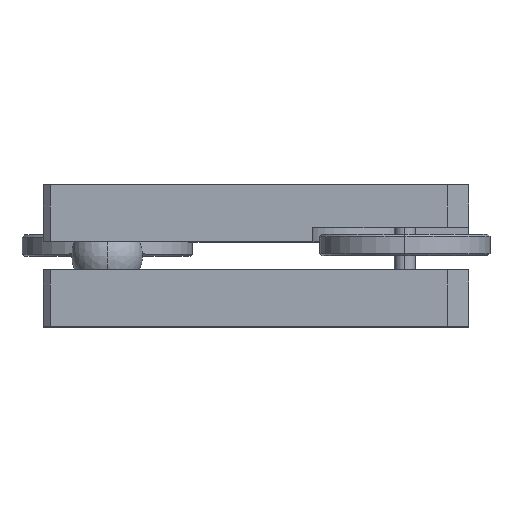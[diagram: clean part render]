
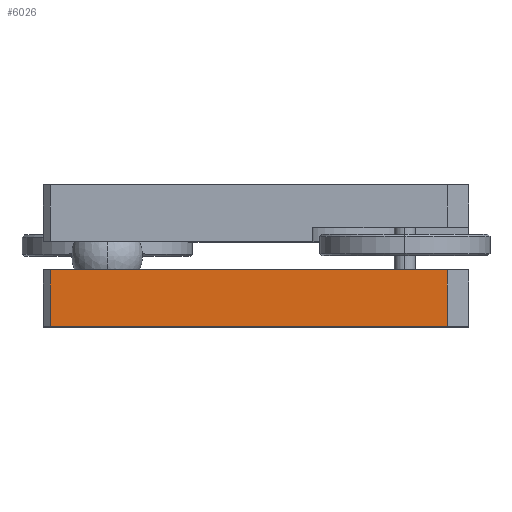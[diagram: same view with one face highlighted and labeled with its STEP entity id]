
A CAD part, top view. The second image highlights one B-rep face of the part: STEP entity #6026.
In plain terms, the highlighted planar face has unit normal (0, 0, 1).
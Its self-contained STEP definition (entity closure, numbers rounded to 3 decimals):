
#5962 = EDGE_CURVE ( 'NONE', #5969, #5971, #21560, .T. ) ;
#5967 = ORIENTED_EDGE ( 'NONE', *, *, #5962, .T. ) ;
#5969 = VERTEX_POINT ( 'NONE', #21615 ) ;
#5971 = VERTEX_POINT ( 'NONE', #21614 ) ;
#6003 = ORIENTED_EDGE ( 'NONE', *, *, #6016, .T. ) ;
#6016 = EDGE_CURVE ( 'NONE', #5971, #6021, #21681, .T. ) ;
#6020 = ORIENTED_EDGE ( 'NONE', *, *, #6024, .F. ) ;
#6021 = VERTEX_POINT ( 'NONE', #21673 ) ;
#6022 = ORIENTED_EDGE ( 'NONE', *, *, #6025, .T. ) ;
#6023 = VERTEX_POINT ( 'NONE', #21672 ) ;
#6024 = EDGE_CURVE ( 'NONE', #6023, #6021, #21671, .T. ) ;
#6025 = EDGE_CURVE ( 'NONE', #6023, #5969, #21667, .T. ) ;
#6026 = ADVANCED_FACE ( 'NONE', ( #21663 ), #21662, .F. ) ;
#6027 = EDGE_LOOP ( 'NONE', ( #6020, #6022, #5967, #6003 ) ) ;
#21557 = DIRECTION ( 'NONE',  ( 1., 0., 0. ) ) ;
#21558 = VECTOR ( 'NONE', #21557, 1000. ) ;
#21559 = CARTESIAN_POINT ( 'NONE',  ( -30., 0., 30. ) ) ;
#21560 = LINE ( 'NONE', #21559, #21558 ) ;
#21614 = CARTESIAN_POINT ( 'NONE',  ( 27., 0., 30. ) ) ;
#21615 = CARTESIAN_POINT ( 'NONE',  ( -29., 0., 30. ) ) ;
#21658 = DIRECTION ( 'NONE',  ( -1., 0., 0. ) ) ;
#21659 = DIRECTION ( 'NONE',  ( 0., 0., -1. ) ) ;
#21660 = CARTESIAN_POINT ( 'NONE',  ( -30., 8., 30. ) ) ;
#21661 = AXIS2_PLACEMENT_3D ( 'NONE', #21660, #21659, #21658 ) ;
#21662 = PLANE ( 'NONE',  #21661 ) ;
#21663 = FACE_OUTER_BOUND ( 'NONE', #6027, .T. ) ;
#21664 = DIRECTION ( 'NONE',  ( 0., -1., 0. ) ) ;
#21665 = VECTOR ( 'NONE', #21664, 1000. ) ;
#21666 = CARTESIAN_POINT ( 'NONE',  ( -29., 8., 30. ) ) ;
#21667 = LINE ( 'NONE', #21666, #21665 ) ;
#21668 = DIRECTION ( 'NONE',  ( 1., 0., 0. ) ) ;
#21669 = VECTOR ( 'NONE', #21668, 1000. ) ;
#21670 = CARTESIAN_POINT ( 'NONE',  ( -30., 8., 30. ) ) ;
#21671 = LINE ( 'NONE', #21670, #21669 ) ;
#21672 = CARTESIAN_POINT ( 'NONE',  ( -29., 8., 30. ) ) ;
#21673 = CARTESIAN_POINT ( 'NONE',  ( 27., 8., 30. ) ) ;
#21678 = DIRECTION ( 'NONE',  ( 0., 1., 0. ) ) ;
#21679 = VECTOR ( 'NONE', #21678, 1000. ) ;
#21680 = CARTESIAN_POINT ( 'NONE',  ( 27., 8., 30. ) ) ;
#21681 = LINE ( 'NONE', #21680, #21679 ) ;
